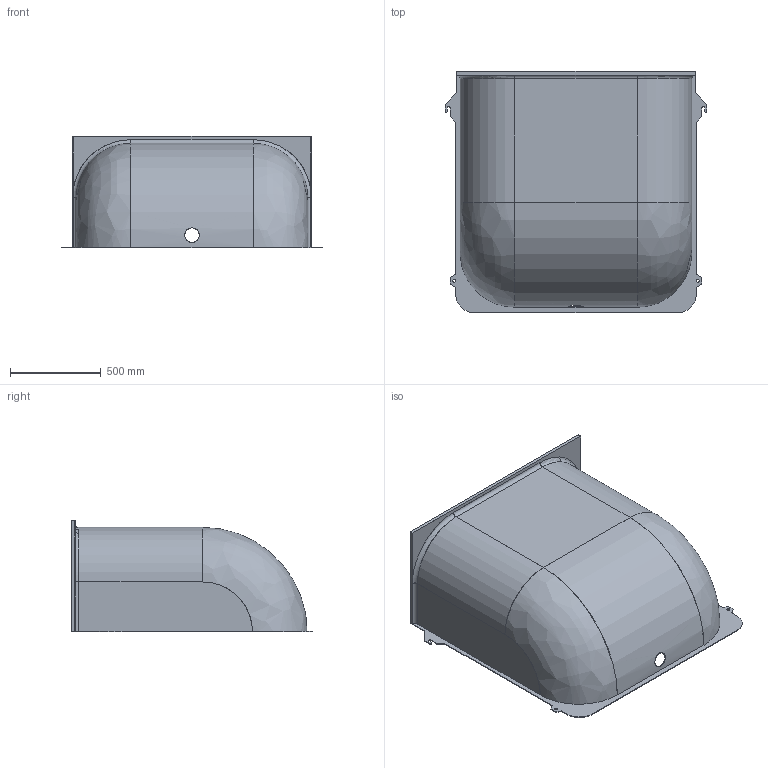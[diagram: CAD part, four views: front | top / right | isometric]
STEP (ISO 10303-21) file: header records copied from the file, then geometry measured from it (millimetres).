
FILE_DESCRIPTION(/* description */ (''),/* implementation_level */ '2;1');
FILE_NAME(/* name */ 'Q:\sge-bs-neu-2008\Marketing\CAD Zeichnungen\3D-CAD-Daten\3D Daten Website\- MEA Multinorm Kunststofflichtschacht\Step\Multinorm_125x130x60.stp',/* time_stamp */ '2019-02-14T10:54:34+01:00',/* author */ ('avgrahammj'),/* organization */ (''),/* preprocessor_version */ 'ST-DEVELOPER v16.1',/* originating_system */ 'Autodesk Inventor 2016',/* authorisation */ '');
FILE_SCHEMA (('AUTOMOTIVE_DESIGN { 1 0 10303 214 3 1 1 }'));
Length unit declared in the file: millimetre
Products named in the file (1): Multinorm_125x130x60
Bounding box: 1440 x 1325 x 615 mm (x, y, z)
Volume: 12807206.9 mm3; surface area: 6433170.7 mm2
Topology: 1 solids, 1 shells, 71 faces, 195 edges, 126 vertices
Faces by surface type: plane 40, cylinder 23, torus 4, bspline 4
Full cylindrical faces by diameter (mm): 16 x2, 80 x1
Entity records: 2488 total; most frequent: CARTESIAN_POINT 642, ORIENTED_EDGE 384, DIRECTION 374, EDGE_CURVE 192, LINE 130, VECTOR 130, VERTEX_POINT 126, AXIS2_PLACEMENT_3D 122
